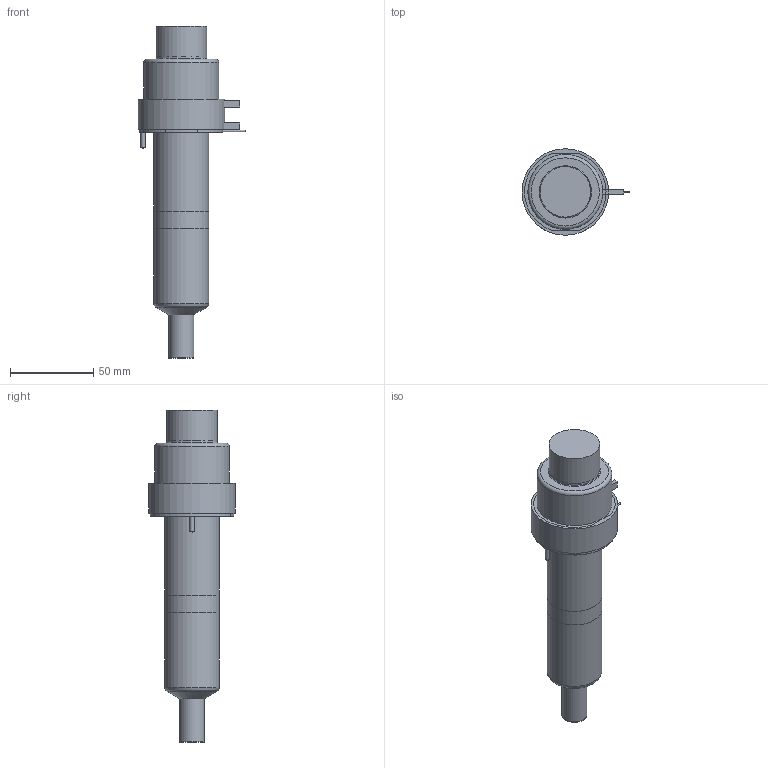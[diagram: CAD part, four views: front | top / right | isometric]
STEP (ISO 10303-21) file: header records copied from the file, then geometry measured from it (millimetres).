
FILE_DESCRIPTION(/* description */ (''),/* implementation_level */ '2;1');
FILE_NAME(/* name */ 'SXYCN19115P7F_200C_a',/* time_stamp */ '2016-03-04T10:37:22+13:00',/* author */ (''),/* organization */ (''),/* preprocessor_version */ 'ST-DEVELOPER v9',/* originating_system */ 'UGS - NX 4.0',/* authorisation */ '');
FILE_SCHEMA (('CONFIG_CONTROL_DESIGN'));
Length unit declared in the file: millimetre
Products named in the file (1): mattD74Dhdwj
Bounding box: 64.85 x 52 x 199.58 mm (x, y, z)
Volume: 334637.9 mm3; surface area: 50534.8 mm2
Topology: 7 solids, 7 shells, 91 faces, 175 edges, 112 vertices
Faces by surface type: plane 45, cylinder 29, torus 8, cone 7, bspline 1, sphere 1
Full cylindrical faces by diameter (mm): 1 x3, 2.2 x1, 2.5 x2, 7 x1, 8 x1, 14.61 x1, 14.995 x2, 18.3 x1, 28.6 x1, 30 x1, 30.4 x1, 33 x2, 38.1 x1, 45 x1, 50 x1, 52 x1
Entity records: 2230 total; most frequent: CARTESIAN_POINT 435, DIRECTION 378, ORIENTED_EDGE 266, AXIS2_PLACEMENT_3D 164, EDGE_LOOP 140, EDGE_CURVE 133, VERTEX_POINT 106, ADVANCED_FACE 91
